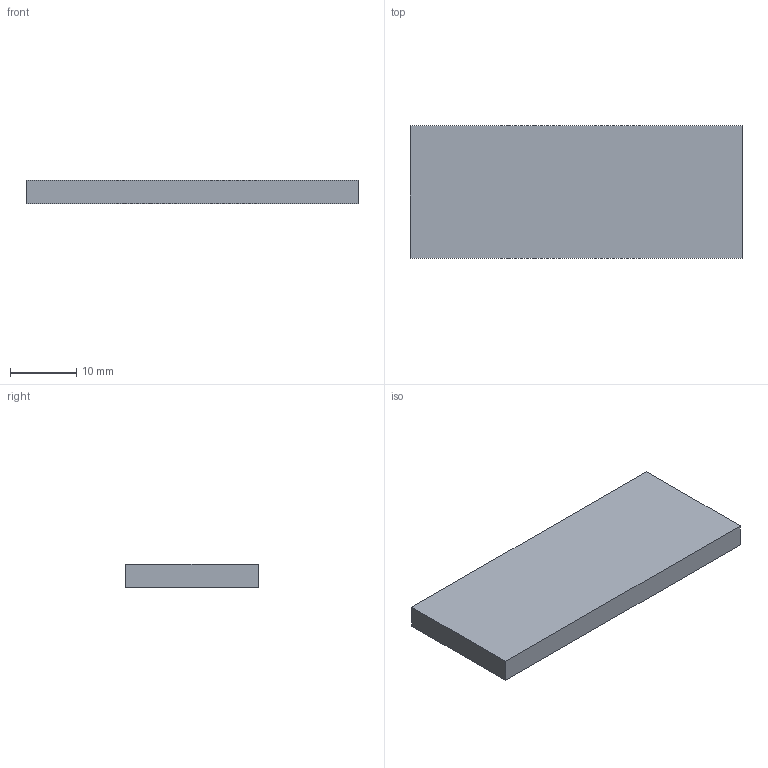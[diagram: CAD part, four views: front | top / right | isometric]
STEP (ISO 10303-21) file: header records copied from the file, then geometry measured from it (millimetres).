
FILE_DESCRIPTION(('CATIA V5 STEP Exchange'),'2;1');
FILE_NAME('G:\够快云库\系统集成开发部\1.部门成员\孙国\工装\手动插管\STP\V3\GZ-SDCG14_V1 垫板.stp','2021-03-19T01:59:17+00:00',('none'),('none'),'CATIA Version 5 Release 20 GA (IN-10)','CATIA V5 STEP AP214','none');
FILE_SCHEMA(('AUTOMOTIVE_DESIGN { 1 0 10303 214 1 1 1 1 }'));
Length unit declared in the file: millimetre
Products named in the file (1): 垫板
Bounding box: 50 x 20 x 3.5 mm (x, y, z)
Volume: 3500 mm3; surface area: 2490 mm2
Topology: 1 solids, 1 shells, 6 faces, 12 edges, 8 vertices
Faces by surface type: plane 6
Entity records: 178 total; most frequent: CARTESIAN_POINT 27, DIRECTION 24, ORIENTED_EDGE 24, VECTOR 12, EDGE_CURVE 12, LINE 12, VERTEX_POINT 8, AXIS2_PLACEMENT_3D 7
